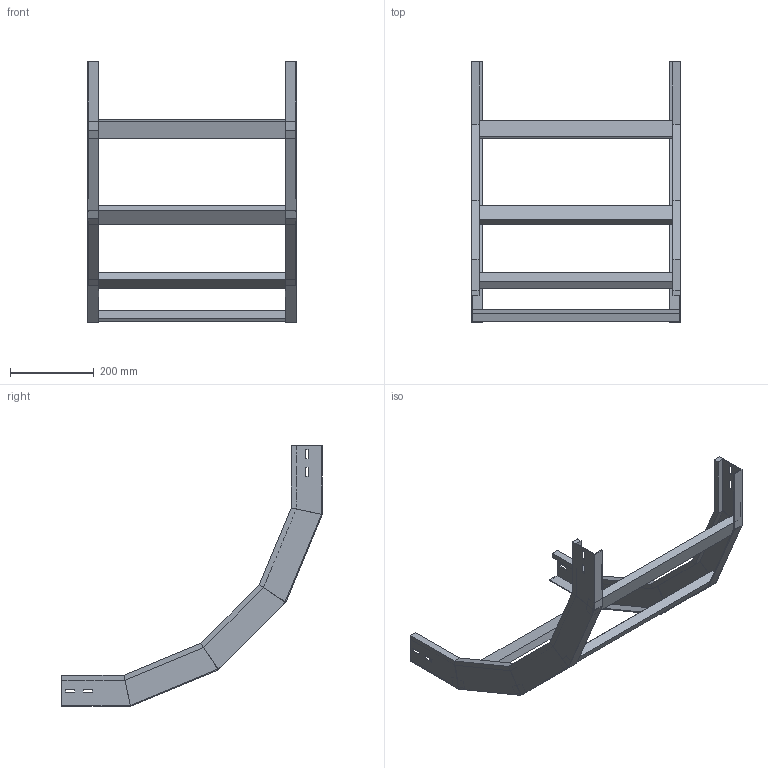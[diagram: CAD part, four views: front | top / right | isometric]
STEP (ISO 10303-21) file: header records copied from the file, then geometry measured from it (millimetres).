
FILE_DESCRIPTION (( 'STEP AP214' ), '1' );
FILE_NAME ('B2X30B5C500XX.step', '2025-03-20T10:25:54', ( '' ), ( '' ), 'SwSTEP 2.0', 'SolidWorks 2023', '' );
FILE_SCHEMA (( 'AUTOMOTIVE_DESIGN' ));
Length unit declared in the file: millimetre
Products named in the file (3): LONGH.SALITA_90°_H75_R500; TRAVERSINO_500; B2X30B5C500XX
Assembly tree (6 placements, depth 2):
  B2X30B5C500XX
    LONGH.SALITA_90°_H75_R500  x2
    TRAVERSINO_500  x4
Bounding box: 500 x 624.12 x 624.12 mm (x, y, z)
Volume: 2339170.9 mm3; surface area: 699523.8 mm2
Topology: 6 solids, 6 shells, 140 faces, 320 edges, 192 vertices
Faces by surface type: plane 140
Entity records: 1872 total; most frequent: CARTESIAN_POINT 309, ORIENTED_EDGE 296, DIRECTION 294, LINE 148, VECTOR 148, EDGE_CURVE 148, VERTEX_POINT 88, AXIS2_PLACEMENT_3D 73
